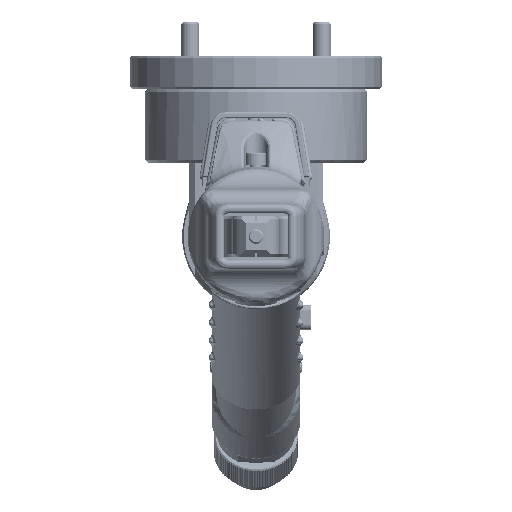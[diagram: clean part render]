
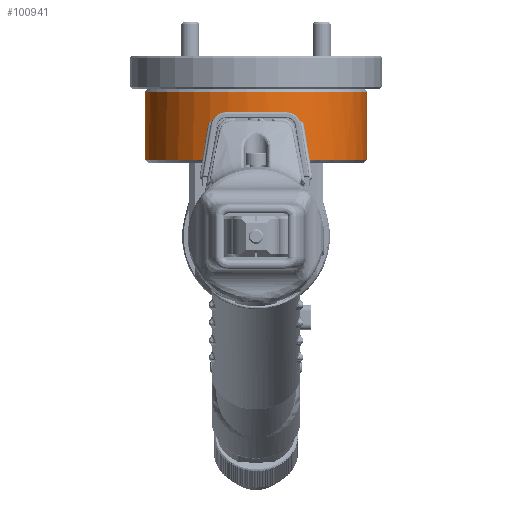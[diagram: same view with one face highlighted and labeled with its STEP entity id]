
A CAD part, left-side view. The second image highlights one B-rep face of the part: STEP entity #100941.
In plain terms, the highlighted cylindrical face has radius 37.5 mm (diameter 75 mm), a full revolution.
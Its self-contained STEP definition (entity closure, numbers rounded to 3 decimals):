
#2437=FACE_BOUND($,#18617,.T.);
#5529=CIRCLE($,#108183,37.5);
#5543=CIRCLE($,#108201,37.5);
#5546=CIRCLE($,#108206,37.5);
#5558=CIRCLE($,#108226,37.5);
#5566=CIRCLE($,#108236,37.5);
#9183=CYLINDRICAL_SURFACE($,#108237,37.5);
#12414=FACE_OUTER_BOUND($,#18616,.T.);
#18616=EDGE_LOOP($,(#71836));
#18617=EDGE_LOOP($,(#71837,#71838,#71839,#71840,#71841,#71842,#71843,#71844));
#28315=LINE($,#220528,#33740);
#28316=LINE($,#220548,#33741);
#28320=LINE($,#220613,#33745);
#28321=LINE($,#220634,#33746);
#33740=VECTOR($,#123382,19.);
#33741=VECTOR($,#123385,19.);
#33745=VECTOR($,#123415,9.);
#33746=VECTOR($,#123428,9.);
#41481=VERTEX_POINT($,#220447);
#41498=VERTEX_POINT($,#220488);
#41499=VERTEX_POINT($,#220489);
#41503=VERTEX_POINT($,#220503);
#41504=VERTEX_POINT($,#220504);
#41512=VERTEX_POINT($,#220527);
#41514=VERTEX_POINT($,#220539);
#41523=VERTEX_POINT($,#220591);
#41529=VERTEX_POINT($,#220616);
#52629=EDGE_CURVE($,#41481,#41481,#5529,.T.);
#52649=EDGE_CURVE($,#41498,#41499,#5543,.T.);
#52657=EDGE_CURVE($,#41503,#41504,#5546,.T.);
#52668=EDGE_CURVE($,#41499,#41512,#28315,.T.);
#52671=EDGE_CURVE($,#41514,#41498,#28316,.T.);
#52683=EDGE_CURVE($,#41523,#41514,#5558,.T.);
#52689=EDGE_CURVE($,#41504,#41523,#28320,.T.);
#52694=EDGE_CURVE($,#41512,#41529,#5566,.T.);
#52695=EDGE_CURVE($,#41529,#41503,#28321,.T.);
#71836=ORIENTED_EDGE($,*,*,#52629,.F.);
#71837=ORIENTED_EDGE($,*,*,#52657,.F.);
#71838=ORIENTED_EDGE($,*,*,#52695,.F.);
#71839=ORIENTED_EDGE($,*,*,#52694,.F.);
#71840=ORIENTED_EDGE($,*,*,#52668,.F.);
#71841=ORIENTED_EDGE($,*,*,#52649,.F.);
#71842=ORIENTED_EDGE($,*,*,#52671,.F.);
#71843=ORIENTED_EDGE($,*,*,#52683,.F.);
#71844=ORIENTED_EDGE($,*,*,#52689,.F.);
#100941=ADVANCED_FACE($,(#12414,#2437),#9183,.T.);
#108183=AXIS2_PLACEMENT_3D($,#220448,#123298,#123299);
#108201=AXIS2_PLACEMENT_3D($,#220490,#123340,#123341);
#108206=AXIS2_PLACEMENT_3D($,#220505,#123355,#123356);
#108226=AXIS2_PLACEMENT_3D($,#220603,#123402,#123403);
#108236=AXIS2_PLACEMENT_3D($,#220632,#123424,#123425);
#108237=AXIS2_PLACEMENT_3D($,#220633,#123426,#123427);
#123298=DIRECTION('center_axis',(0.,0.,
1.));
#123299=DIRECTION('ref_axis',(-1.,0.,0.));
#123340=DIRECTION('center_axis',(0.,0.,
-1.));
#123341=DIRECTION('ref_axis',(-1.,0.,0.));
#123355=DIRECTION('center_axis',(0.,0.,
-1.));
#123356=DIRECTION('ref_axis',(-1.,0.,0.));
#123382=DIRECTION($,(0.,0.,-1.));
#123385=DIRECTION($,(0.,0.,1.));
#123402=DIRECTION('center_axis',(0.,0.,
-1.));
#123403=DIRECTION('ref_axis',(-1.,0.,0.));
#123415=DIRECTION($,(0.,0.,-1.));
#123424=DIRECTION('center_axis',(0.,0.,
-1.));
#123425=DIRECTION('ref_axis',(-1.,0.,0.));
#123426=DIRECTION('center_axis',(0.,0.,
1.));
#123427=DIRECTION('ref_axis',(-1.,0.,0.));
#123428=DIRECTION($,(0.,0.,1.));
#220447=CARTESIAN_POINT('',(-16.5,0.,49.));
#220448=CARTESIAN_POINT('Origin',(-54.,0.,49.));
#220488=CARTESIAN_POINT('',(-23.576,21.923,45.));
#220489=CARTESIAN_POINT('',(-23.576,-21.923,45.));
#220490=CARTESIAN_POINT('Origin',(-54.,0.,45.));
#220503=CARTESIAN_POINT('',(-90.275,-9.507,35.));
#220504=CARTESIAN_POINT('',(-90.275,9.507,35.));
#220505=CARTESIAN_POINT('Origin',(-54.,0.,35.));
#220527=CARTESIAN_POINT('',(-23.576,-21.923,26.));
#220528=CARTESIAN_POINT($,(-23.576,-21.923,25.));
#220539=CARTESIAN_POINT('',(-23.576,21.923,26.));
#220548=CARTESIAN_POINT($,(-23.576,21.923,25.));
#220591=CARTESIAN_POINT('',(-90.275,9.507,26.));
#220603=CARTESIAN_POINT('Origin',(-54.,0.,26.));
#220613=CARTESIAN_POINT($,(-90.275,9.507,25.));
#220616=CARTESIAN_POINT('',(-90.275,-9.507,26.));
#220632=CARTESIAN_POINT('Origin',(-54.,0.,26.));
#220633=CARTESIAN_POINT('Origin',(-54.,0.,25.));
#220634=CARTESIAN_POINT($,(-90.275,-9.507,25.));
